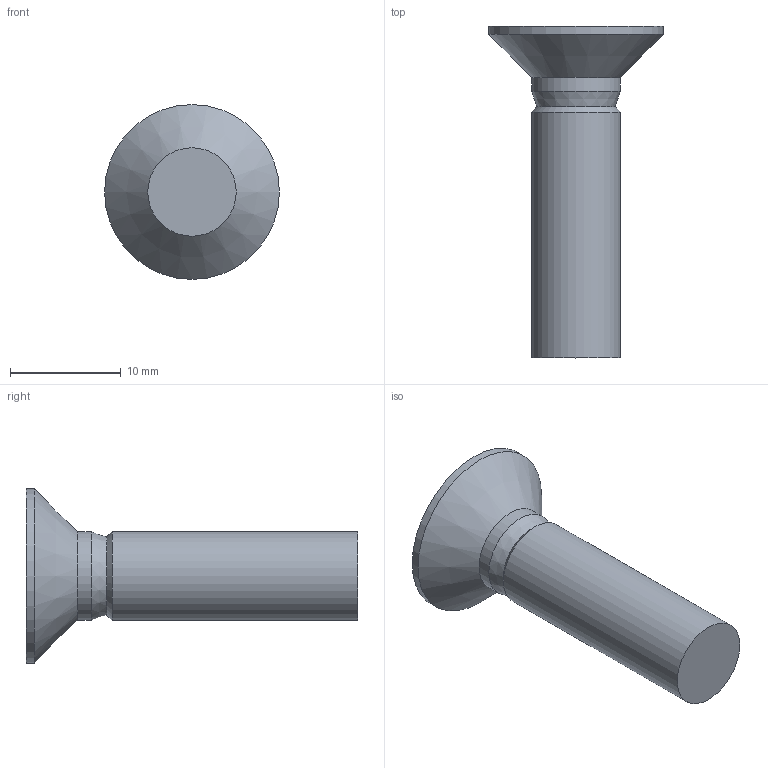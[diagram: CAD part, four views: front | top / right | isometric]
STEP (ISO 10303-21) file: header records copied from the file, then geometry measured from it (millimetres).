
FILE_DESCRIPTION(/* description */ (''),/* implementation_level */ '2;1');
FILE_NAME(/* name */ 'C:\Users\unitec\Documents\Inventor\HP\ボルト\JIS B 1111 十字穴付き皿小ねじ\IPT\CHWCSS-M8\CHWCSS-M8-30.stp',/* time_stamp */ '2016-12-24T16:30:25+09:00',/* author */ ('unitec'),/* organization */ (''),/* preprocessor_version */ 'ST-DEVELOPER v15.2',/* originating_system */ 'Autodesk Inventor 2014',/* authorisation */ '');
FILE_SCHEMA (('AUTOMOTIVE_DESIGN { 1 0 10303 214 3 1 1 }'));
Length unit declared in the file: millimetre
Products named in the file (1): CHWCSS-M8-30
Bounding box: 15.8 x 30 x 15.8 mm (x, y, z)
Volume: 1800.6 mm3; surface area: 1182.6 mm2
Topology: 1 solids, 1 shells, 33 faces, 77 edges, 43 vertices
Faces by surface type: plane 23, bspline 4, cylinder 3, cone 3
Full cylindrical faces by diameter (mm): 8 x2, 15.8 x1
Entity records: 1057 total; most frequent: CARTESIAN_POINT 400, ORIENTED_EDGE 134, DIRECTION 106, EDGE_CURVE 67, VERTEX_POINT 43, EDGE_LOOP 40, AXIS2_PLACEMENT_3D 37, ADVANCED_FACE 33
